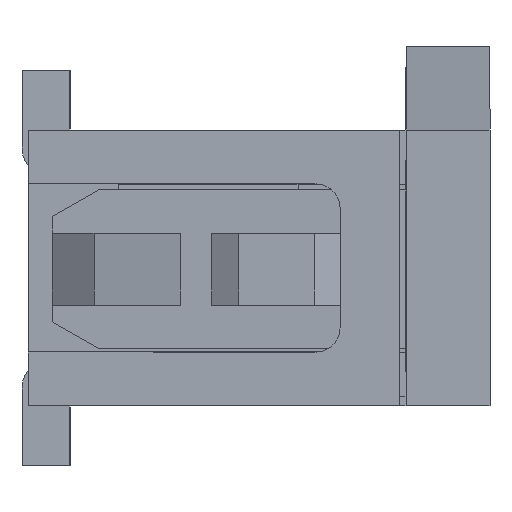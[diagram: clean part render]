
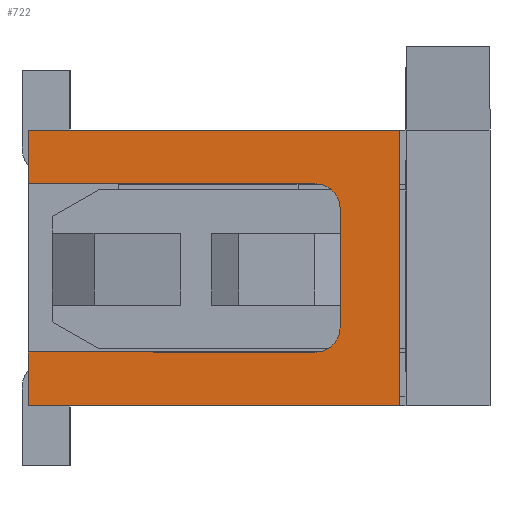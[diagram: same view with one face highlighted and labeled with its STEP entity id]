
A CAD part, left-side view. The second image highlights one B-rep face of the part: STEP entity #722.
In plain terms, the highlighted planar face has unit normal (-1, 0, 0).
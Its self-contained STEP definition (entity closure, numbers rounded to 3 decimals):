
#104=CIRCLE('',#9087,0.2);
#105=CIRCLE('',#9088,0.2);
#314=FACE_OUTER_BOUND('',#1486,.T.);
#722=ADVANCED_FACE('',(#314),#1127,.T.);
#1127=PLANE('',#9089);
#1486=EDGE_LOOP('',(#2680,#2681,#2682,#2683,#2684,#2685,#2686,#2687,#2688,
#2689));
#2680=ORIENTED_EDGE('',*,*,#5757,.T.);
#2681=ORIENTED_EDGE('',*,*,#5850,.T.);
#2682=ORIENTED_EDGE('',*,*,#5891,.T.);
#2683=ORIENTED_EDGE('',*,*,#5721,.T.);
#2684=ORIENTED_EDGE('',*,*,#5892,.T.);
#2685=ORIENTED_EDGE('',*,*,#5893,.T.);
#2686=ORIENTED_EDGE('',*,*,#5753,.T.);
#2687=ORIENTED_EDGE('',*,*,#5505,.T.);
#2688=ORIENTED_EDGE('',*,*,#5894,.T.);
#2689=ORIENTED_EDGE('',*,*,#5833,.F.);
#4620=VERTEX_POINT('',#12203);
#4621=VERTEX_POINT('',#12205);
#4752=VERTEX_POINT('',#12619);
#4753=VERTEX_POINT('',#12621);
#4774=VERTEX_POINT('',#12675);
#4777=VERTEX_POINT('',#12681);
#4778=VERTEX_POINT('',#12683);
#4842=VERTEX_POINT('',#12824);
#4855=VERTEX_POINT('',#12854);
#4880=VERTEX_POINT('',#12933);
#5505=EDGE_CURVE('',#4621,#4620,#6817,.T.);
#5721=EDGE_CURVE('',#4753,#4752,#7030,.T.);
#5753=EDGE_CURVE('',#4774,#4621,#7062,.T.);
#5757=EDGE_CURVE('',#4778,#4777,#7066,.T.);
#5833=EDGE_CURVE('',#4778,#4842,#7142,.T.);
#5850=EDGE_CURVE('',#4777,#4855,#7156,.T.);
#5891=EDGE_CURVE('',#4855,#4753,#104,.T.);
#5892=EDGE_CURVE('',#4752,#4880,#105,.T.);
#5893=EDGE_CURVE('',#4880,#4774,#7195,.T.);
#5894=EDGE_CURVE('',#4620,#4842,#7196,.T.);
#6817=LINE('',#12204,#8008);
#7030=LINE('',#12620,#8221);
#7062=LINE('',#12674,#8253);
#7066=LINE('',#12682,#8257);
#7142=LINE('',#12823,#8333);
#7156=LINE('',#12855,#8347);
#7195=LINE('',#12934,#8386);
#7196=LINE('',#12935,#8387);
#8008=VECTOR('',#9770,1.);
#8221=VECTOR('',#10125,1.);
#8253=VECTOR('',#10159,1.);
#8257=VECTOR('',#10163,1.);
#8333=VECTOR('',#10241,1.);
#8347=VECTOR('',#10263,1.);
#8386=VECTOR('',#10332,1.);
#8387=VECTOR('',#10333,1.);
#9087=AXIS2_PLACEMENT_3D('',#12931,#10328,#10329);
#9088=AXIS2_PLACEMENT_3D('',#12932,#10330,#10331);
#9089=AXIS2_PLACEMENT_3D('',#12936,#10334,#10335);
#9770=DIRECTION('',(0.,-1.,0.));
#10125=DIRECTION('',(0.,0.,-1.));
#10159=DIRECTION('',(0.,0.,-1.));
#10163=DIRECTION('',(0.,0.,-1.));
#10241=DIRECTION('',(0.,-1.,0.));
#10263=DIRECTION('',(0.,-1.,0.));
#10328=DIRECTION('',(1.,0.,0.));
#10329=DIRECTION('',(0.,1.,0.));
#10330=DIRECTION('',(1.,0.,0.));
#10331=DIRECTION('',(0.,1.,0.));
#10332=DIRECTION('',(0.,1.,0.));
#10333=DIRECTION('',(0.,0.,1.));
#10334=DIRECTION('',(-1.,0.,0.));
#10335=DIRECTION('',(0.,0.,1.));
#12203=CARTESIAN_POINT('',(-6.45,0.05,0.));
#12204=CARTESIAN_POINT('',(-6.45,3.15,0.));
#12205=CARTESIAN_POINT('',(-6.45,3.15,0.));
#12619=CARTESIAN_POINT('',(-6.45,0.55,0.65));
#12620=CARTESIAN_POINT('',(-6.45,0.55,1.65));
#12621=CARTESIAN_POINT('',(-6.45,0.55,1.65));
#12674=CARTESIAN_POINT('',(-6.45,3.15,2.3));
#12675=CARTESIAN_POINT('',(-6.45,3.15,0.45));
#12681=CARTESIAN_POINT('',(-6.45,3.15,1.85));
#12682=CARTESIAN_POINT('',(-6.45,3.15,2.3));
#12683=CARTESIAN_POINT('',(-6.45,3.15,2.3));
#12823=CARTESIAN_POINT('',(-6.45,3.15,2.3));
#12824=CARTESIAN_POINT('',(-6.45,0.05,2.3));
#12854=CARTESIAN_POINT('',(-6.45,0.75,1.85));
#12855=CARTESIAN_POINT('',(-6.45,3.15,1.85));
#12931=CARTESIAN_POINT('',(-6.45,0.75,1.65));
#12932=CARTESIAN_POINT('',(-6.45,0.75,0.65));
#12933=CARTESIAN_POINT('',(-6.45,0.75,0.45));
#12934=CARTESIAN_POINT('',(-6.45,0.75,0.45));
#12935=CARTESIAN_POINT('',(-6.45,0.05,0.));
#12936=CARTESIAN_POINT('',(-6.45,3.15,2.3));
